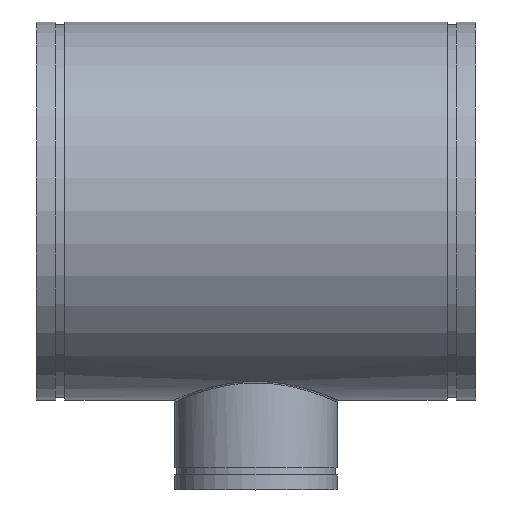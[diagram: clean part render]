
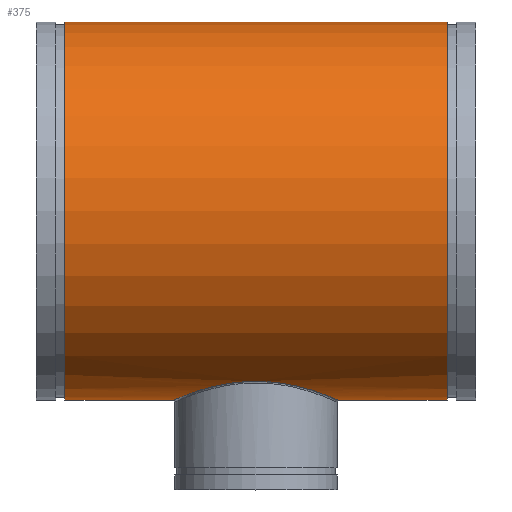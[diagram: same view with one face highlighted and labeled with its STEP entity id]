
A CAD part, top view. The second image highlights one B-rep face of the part: STEP entity #375.
In plain terms, the highlighted cylindrical face has radius 327.66 mm (diameter 655.32 mm), a full revolution.
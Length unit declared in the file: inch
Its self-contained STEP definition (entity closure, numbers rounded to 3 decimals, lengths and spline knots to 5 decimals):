
#54=FACE_BOUND('',#119,.T.);
#65=LINE('',#819,#76);
#76=VECTOR('',#483,12.9);
#87=CYLINDRICAL_SURFACE('',#415,12.9);
#98=FACE_OUTER_BOUND('',#118,.T.);
#118=EDGE_LOOP('',(#266,#267,#268,#269));
#119=EDGE_LOOP('',(#270));
#150=B_SPLINE_CURVE_WITH_KNOTS('',3,(#787,#788,#789,#790,#791,#792,#793,
#794,#795,#796,#797,#798,#799,#800,#801,#802,#803,#804,#805,#806,#807,#808,
#809,#810,#811,#812,#813,#814),.UNSPECIFIED.,.T.,.F.,(4,1,1,1,1,1,1,1,1,
1,1,1,1,1,1,1,1,1,1,1,1,1,1,1,1,4),(-86.2005,-83.12191,
-80.04332,-73.88614,-69.78135,-66.70276,
-65.67657,-63.62418,-61.57178,-57.467,-53.36221,
-49.25743,-45.15264,-41.04786,-36.94307,
-32.83828,-28.7335,-24.62871,-22.57632,
-21.55012,-20.52393,-16.41914,-12.31436,
-6.15718,-3.07859,0.),.UNSPECIFIED.);
#154=CIRCLE('',#416,12.9);
#155=CIRCLE('',#417,12.9);
#182=VERTEX_POINT('',#751);
#185=VERTEX_POINT('',#816);
#186=VERTEX_POINT('',#818);
#219=EDGE_CURVE('',#182,#182,#150,.T.);
#220=EDGE_CURVE('',#185,#185,#154,.T.);
#221=EDGE_CURVE('',#185,#186,#65,.T.);
#222=EDGE_CURVE('',#186,#186,#155,.T.);
#266=ORIENTED_EDGE('',*,*,#220,.T.);
#267=ORIENTED_EDGE('',*,*,#221,.T.);
#268=ORIENTED_EDGE('',*,*,#222,.T.);
#269=ORIENTED_EDGE('',*,*,#221,.F.);
#270=ORIENTED_EDGE('',*,*,#219,.F.);
#375=ADVANCED_FACE('',(#98,#54),#87,.T.);
#415=AXIS2_PLACEMENT_3D('',#815,#479,#480);
#416=AXIS2_PLACEMENT_3D('',#817,#481,#482);
#417=AXIS2_PLACEMENT_3D('',#820,#484,#485);
#479=DIRECTION('center_axis',(-1.,0.,0.));
#480=DIRECTION('ref_axis',(0.,-1.,0.));
#481=DIRECTION('center_axis',(1.,0.,0.));
#482=DIRECTION('ref_axis',(0.,-1.,0.));
#483=DIRECTION('',(1.,0.,0.));
#484=DIRECTION('center_axis',(-1.,0.,0.));
#485=DIRECTION('ref_axis',(0.,-1.,0.));
#751=CARTESIAN_POINT('',(0.,-11.61118,-5.62054));
#787=CARTESIAN_POINT('Ctrl Pts',(0.,-11.61118,-5.62054));
#788=CARTESIAN_POINT('Ctrl Pts',(0.43001,-11.61118,-5.62054));
#789=CARTESIAN_POINT('Ctrl Pts',(1.28966,-11.65907,-5.52302));
#790=CARTESIAN_POINT('Ctrl Pts',(2.90392,-11.92033,-4.95614));
#791=CARTESIAN_POINT('Ctrl Pts',(4.35107,-12.36624,-3.80865));
#792=CARTESIAN_POINT('Ctrl Pts',(5.28169,-12.73235,-2.22811));
#793=CARTESIAN_POINT('Ctrl Pts',(5.58299,-12.86041,-1.13086));
#794=CARTESIAN_POINT('Ctrl Pts',(5.68036,-12.90231,-0.28487));
#795=CARTESIAN_POINT('Ctrl Pts',(5.68037,-12.90224,0.42724));
#796=CARTESIAN_POINT('Ctrl Pts',(5.50713,-12.82791,1.55165));
#797=CARTESIAN_POINT('Ctrl Pts',(4.97673,-12.6064,2.87077));
#798=CARTESIAN_POINT('Ctrl Pts',(3.91626,-12.2237,4.17992));
#799=CARTESIAN_POINT('Ctrl Pts',(2.51846,-11.84503,5.1299));
#800=CARTESIAN_POINT('Ctrl Pts',(0.87266,-11.60133,5.64162));
#801=CARTESIAN_POINT('Ctrl Pts',(-0.87275,-11.60119,5.64173));
#802=CARTESIAN_POINT('Ctrl Pts',(-2.51845,-11.8451,5.12983));
#803=CARTESIAN_POINT('Ctrl Pts',(-3.91631,-12.22368,4.17991));
#804=CARTESIAN_POINT('Ctrl Pts',(-4.97678,-12.60642,2.87064));
#805=CARTESIAN_POINT('Ctrl Pts',(-5.50716,-12.82795,1.55175));
#806=CARTESIAN_POINT('Ctrl Pts',(-5.6587,-12.89294,0.56773));
#807=CARTESIAN_POINT('Ctrl Pts',(-5.68035,-12.90229,0.00004));
#808=CARTESIAN_POINT('Ctrl Pts',(-5.6483,-12.88866,-0.85195));
#809=CARTESIAN_POINT('Ctrl Pts',(-5.35346,-12.76068,-2.1066));
#810=CARTESIAN_POINT('Ctrl Pts',(-4.35093,-12.36611,-3.80861));
#811=CARTESIAN_POINT('Ctrl Pts',(-2.90395,-11.92039,-4.95618));
#812=CARTESIAN_POINT('Ctrl Pts',(-1.28963,-11.65904,-5.52301));
#813=CARTESIAN_POINT('Ctrl Pts',(-0.43001,-11.61118,-5.62054));
#814=CARTESIAN_POINT('Ctrl Pts',(0.,-11.61118,
-5.62054));
#815=CARTESIAN_POINT('Origin',(15.,0.,0.));
#816=CARTESIAN_POINT('',(-13.035,12.9,0.));
#817=CARTESIAN_POINT('Origin',(-13.035,0.,0.));
#818=CARTESIAN_POINT('',(13.035,12.9,0.));
#819=CARTESIAN_POINT('',(15.,12.9,0.));
#820=CARTESIAN_POINT('Origin',(13.035,0.,0.));
